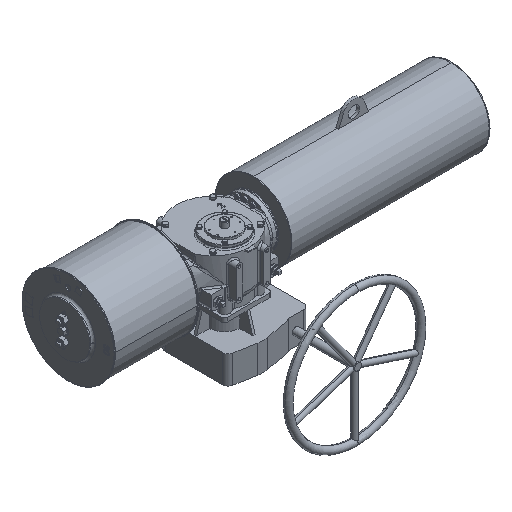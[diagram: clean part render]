
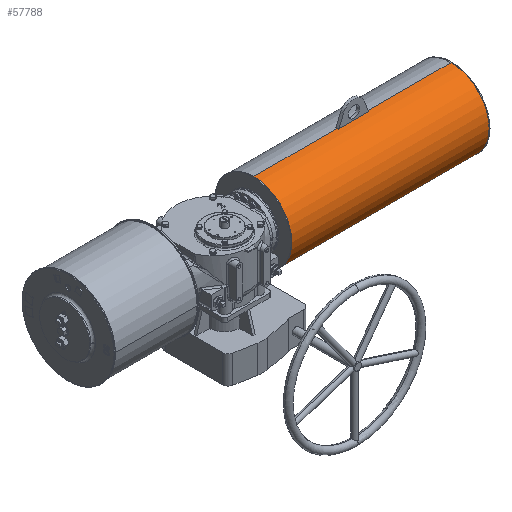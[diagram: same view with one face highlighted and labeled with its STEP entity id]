
A CAD part, isometric view. The second image highlights one B-rep face of the part: STEP entity #57788.
In plain terms, the highlighted cylindrical face has radius 136.5 mm (diameter 273 mm), a partial arc.
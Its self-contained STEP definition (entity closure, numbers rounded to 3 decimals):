
#361 = FACE_OUTER_BOUND ( 'NONE', #64323, .T. ) ;
#2222 = VECTOR ( 'NONE', #59176, 1000. ) ;
#2509 = DIRECTION ( 'NONE',  ( 0., 0., 1. ) ) ;
#3615 = EDGE_CURVE ( 'NONE', #28712, #14259, #60647, .T. ) ;
#3705 = CARTESIAN_POINT ( 'NONE',  ( 479.477, 30.296, 138.408 ) ) ;
#3712 = DIRECTION ( 'NONE',  ( 0., 0., 1. ) ) ;
#6768 = AXIS2_PLACEMENT_3D ( 'NONE', #55220, #37022, #67454 ) ;
#9278 = EDGE_CURVE ( 'NONE', #35759, #69529, #71060, .T. ) ;
#9608 = VERTEX_POINT ( 'NONE', #76116 ) ;
#9784 = VERTEX_POINT ( 'NONE', #19531 ) ;
#10277 = LINE ( 'NONE', #34379, #29783 ) ;
#11766 = CARTESIAN_POINT ( 'NONE',  ( 183.477, 30.296, 138.408 ) ) ;
#11997 = AXIS2_PLACEMENT_3D ( 'NONE', #25878, #38512, #46317 ) ;
#12517 = VERTEX_POINT ( 'NONE', #26294 ) ;
#12617 = DIRECTION ( 'NONE',  ( 0., 0., 1. ) ) ;
#14259 = VERTEX_POINT ( 'NONE', #33515 ) ;
#15147 = ORIENTED_EDGE ( 'NONE', *, *, #9278, .T. ) ;
#16349 = CARTESIAN_POINT ( 'NONE',  ( 179.977, 35.296, 2. ) ) ;
#16910 = DIRECTION ( 'NONE',  ( -1., 0., 0. ) ) ;
#17440 = ORIENTED_EDGE ( 'NONE', *, *, #21225, .F. ) ;
#18033 = CARTESIAN_POINT ( 'NONE',  ( 179.977, 35.296, 138.5 ) ) ;
#18772 = EDGE_CURVE ( 'NONE', #52942, #35759, #39903, .T. ) ;
#19531 = CARTESIAN_POINT ( 'NONE',  ( 179.977, 35.296, -134.5 ) ) ;
#20298 = DIRECTION ( 'NONE',  ( -1., 0., 0. ) ) ;
#21225 = EDGE_CURVE ( 'NONE', #52942, #33041, #39818, .T. ) ;
#24006 = EDGE_CURVE ( 'NONE', #9784, #12517, #47560, .T. ) ;
#25878 = CARTESIAN_POINT ( 'NONE',  ( 479.477, 35.296, 2. ) ) ;
#26233 = EDGE_CURVE ( 'NONE', #69529, #9608, #62481, .T. ) ;
#26294 = CARTESIAN_POINT ( 'NONE',  ( 886.977, 35.296, -134.5 ) ) ;
#26675 = ORIENTED_EDGE ( 'NONE', *, *, #29871, .F. ) ;
#28712 = VERTEX_POINT ( 'NONE', #18033 ) ;
#29783 = VECTOR ( 'NONE', #77050, 1000. ) ;
#29871 = EDGE_CURVE ( 'NONE', #28712, #9608, #10277, .T. ) ;
#30657 = CIRCLE ( 'NONE', #74837, 136.5 ) ;
#32558 = CIRCLE ( 'NONE', #42671, 136.5 ) ;
#33041 = VERTEX_POINT ( 'NONE', #52441 ) ;
#33515 = CARTESIAN_POINT ( 'NONE',  ( 179.977, -101.204, 2. ) ) ;
#34379 = CARTESIAN_POINT ( 'NONE',  ( 183.477, 35.296, 138.5 ) ) ;
#35303 = CARTESIAN_POINT ( 'NONE',  ( 183.477, 35.296, -134.5 ) ) ;
#35759 = VERTEX_POINT ( 'NONE', #75717 ) ;
#37022 = DIRECTION ( 'NONE',  ( 1., 0., 0. ) ) ;
#38512 = DIRECTION ( 'NONE',  ( -1., 0., 0. ) ) ;
#39818 = LINE ( 'NONE', #69860, #2222 ) ;
#39903 = CIRCLE ( 'NONE', #6768, 136.5 ) ;
#42671 = AXIS2_PLACEMENT_3D ( 'NONE', #16349, #51154, #3712 ) ;
#43219 = ORIENTED_EDGE ( 'NONE', *, *, #74228, .T. ) ;
#44329 = CARTESIAN_POINT ( 'NONE',  ( 179.977, 35.296, 2. ) ) ;
#46317 = DIRECTION ( 'NONE',  ( 0., 1., 0. ) ) ;
#47560 = LINE ( 'NONE', #35303, #49634 ) ;
#48589 = CYLINDRICAL_SURFACE ( 'NONE', #71087, 136.5 ) ;
#49487 = DIRECTION ( 'NONE',  ( 0., 0., 1. ) ) ;
#49634 = VECTOR ( 'NONE', #54273, 1000. ) ;
#51154 = DIRECTION ( 'NONE',  ( 1., 0., 0. ) ) ;
#52441 = CARTESIAN_POINT ( 'NONE',  ( 886.977, 35.296, 138.5 ) ) ;
#52942 = VERTEX_POINT ( 'NONE', #60834 ) ;
#54273 = DIRECTION ( 'NONE',  ( 1., 0., 0. ) ) ;
#55220 = CARTESIAN_POINT ( 'NONE',  ( 587.477, 35.296, 2. ) ) ;
#56969 = DIRECTION ( 'NONE',  ( 1., 0., 0. ) ) ;
#57138 = ORIENTED_EDGE ( 'NONE', *, *, #24006, .T. ) ;
#57788 = ADVANCED_FACE ( 'NONE', ( #361 ), #48589, .T. ) ;
#59176 = DIRECTION ( 'NONE',  ( 1., 0., 0. ) ) ;
#60647 = CIRCLE ( 'NONE', #72043, 136.5 ) ;
#60834 = CARTESIAN_POINT ( 'NONE',  ( 587.477, 35.296, 138.5 ) ) ;
#61217 = DIRECTION ( 'NONE',  ( 1., 0., 0. ) ) ;
#62481 = CIRCLE ( 'NONE', #11997, 136.5 ) ;
#62611 = CARTESIAN_POINT ( 'NONE',  ( 886.977, 35.296, 2. ) ) ;
#64323 = EDGE_LOOP ( 'NONE', ( #78111, #43219, #57138, #70046, #17440, #75992, #15147, #66821, #26675 ) ) ;
#66250 = EDGE_CURVE ( 'NONE', #12517, #33041, #30657, .T. ) ;
#66771 = CARTESIAN_POINT ( 'NONE',  ( 183.477, 35.296, 2. ) ) ;
#66821 = ORIENTED_EDGE ( 'NONE', *, *, #26233, .T. ) ;
#67454 = DIRECTION ( 'NONE',  ( 0., -1., 0. ) ) ;
#69529 = VERTEX_POINT ( 'NONE', #3705 ) ;
#69860 = CARTESIAN_POINT ( 'NONE',  ( 183.477, 35.296, 138.5 ) ) ;
#70046 = ORIENTED_EDGE ( 'NONE', *, *, #66250, .T. ) ;
#71060 = LINE ( 'NONE', #11766, #77151 ) ;
#71087 = AXIS2_PLACEMENT_3D ( 'NONE', #66771, #61217, #12617 ) ;
#72043 = AXIS2_PLACEMENT_3D ( 'NONE', #44329, #56969, #49487 ) ;
#74228 = EDGE_CURVE ( 'NONE', #14259, #9784, #32558, .T. ) ;
#74837 = AXIS2_PLACEMENT_3D ( 'NONE', #62611, #20298, #2509 ) ;
#75717 = CARTESIAN_POINT ( 'NONE',  ( 587.477, 30.296, 138.408 ) ) ;
#75992 = ORIENTED_EDGE ( 'NONE', *, *, #18772, .T. ) ;
#76116 = CARTESIAN_POINT ( 'NONE',  ( 479.477, 35.296, 138.5 ) ) ;
#77050 = DIRECTION ( 'NONE',  ( 1., 0., 0. ) ) ;
#77151 = VECTOR ( 'NONE', #16910, 1000. ) ;
#78111 = ORIENTED_EDGE ( 'NONE', *, *, #3615, .T. ) ;
